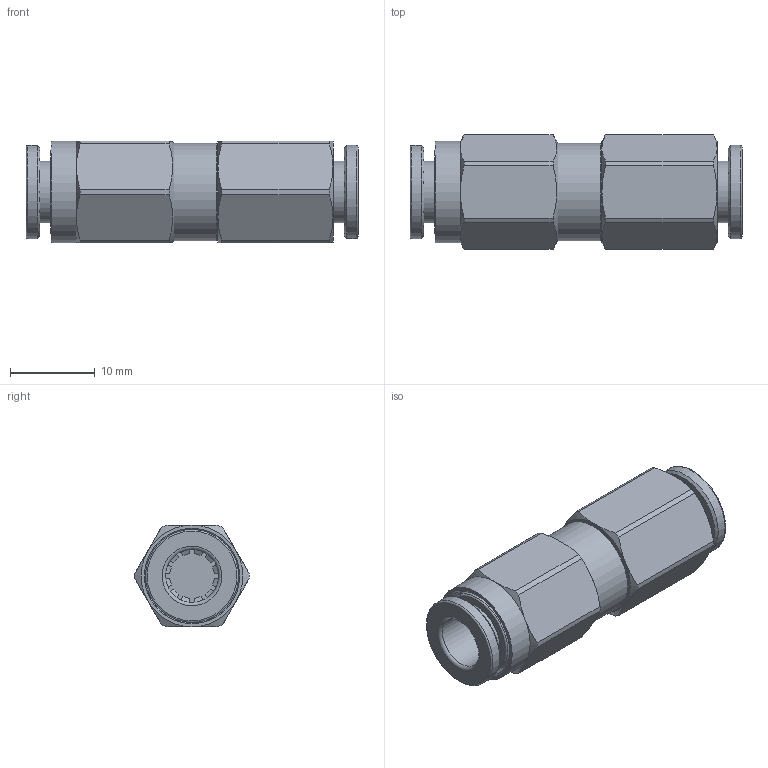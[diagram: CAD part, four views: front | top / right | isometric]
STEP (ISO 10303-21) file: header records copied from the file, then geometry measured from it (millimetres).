
FILE_DESCRIPTION(('STEP AP214'),'1');
FILE_NAME('BVP-10-B10.stp','2026-02-02T08:02:00',(' '),(' '),'Spatial InterOp 3D',' ',' ');
FILE_SCHEMA(('AUTOMOTIVE_DESIGN { 1 0 10303 214 1 1 1 1 }'));
Length unit declared in the file: millimetre
Products named in the file (4): BVP-10-B10; 2; 1
Assembly tree (3 placements, depth 2):
  BVP-10-B10
    2
    1
    1
Bounding box: 39.23 x 13.5 x 12 mm (x, y, z)
Volume: 3387.3 mm3; surface area: 4312.5 mm2
Topology: 3 solids, 6 shells, 570 faces, 1665 edges, 1126 vertices
Faces by surface type: cylinder 192, cone 183, plane 139, torus 56
Full cylindrical faces by diameter (mm): 6.25 x2, 7.3 x2, 7.5 x2, 7.8 x2, 8.1 x2, 8.735 x2, 9.1 x2, 9.2 x2, 10 x4, 10.1 x4, 10.25 x4, 10.8 x2, 10.9 x2, 11 x2, 11.5 x1, 12 x1
Entity records: 32390 total; most frequent: CARTESIAN_POINT 6686, ORIENTED_EDGE 3086, DIRECTION 2348, STYLED_ITEM 2111, PRESENTATION_STYLE_ASSIGNMENT 2111, COLOUR_RGB 2111, EDGE_CURVE 1543, CURVE_STYLE 1539
